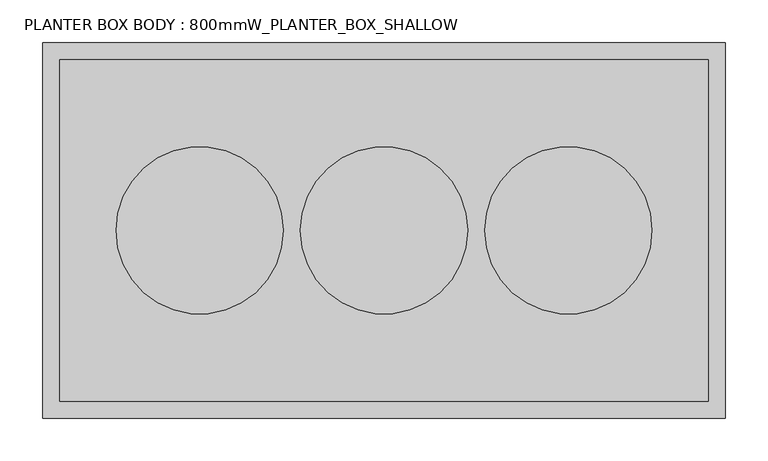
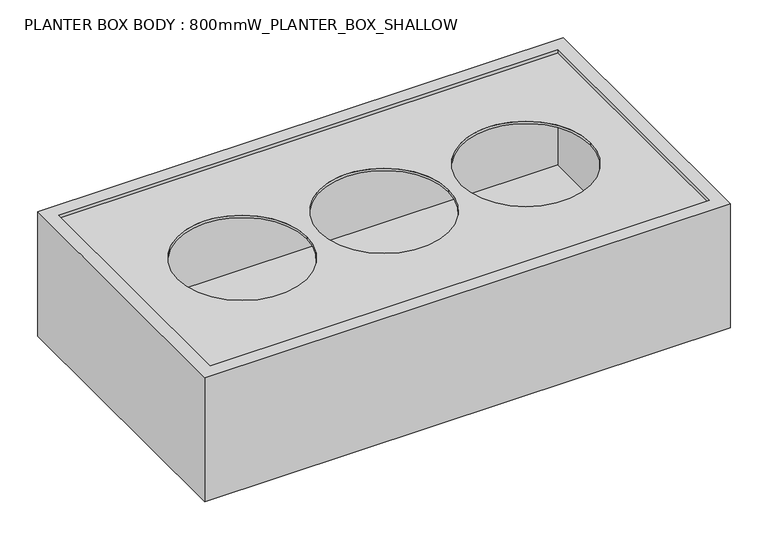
"""IFC4 building model written with IfcOpenShell, lengths in millimetres: furniture geometry, PLANTER BOX BODY : 800mmW_PLANTER_BOX_SHALLOW."""

import ifcopenshell
import ifcopenshell.guid

model = None  # the IFC model being written
_history = None  # IfcOwnerHistory: only IFC2X3 demands one
_inside = {}  # id of a spatial element -> (the spatial element, [elements in it])
_under = {}  # id of a project, library or spatial element -> (it, [spatial elements below it])
_declared = {}  # id of a project -> (the project, [libraries it declares])
_typed = {}  # id of a type object -> (the type object, [elements of that type])
_made_of = {}  # id of a material, layer set ... -> (it, [elements and type objects made of it])


def new_model(schema):
    """Start an empty IFC model of exactly this schema.

    Asked for "IFC4X3", IfcOpenShell would pick the latest addendum, in which some entities
    have other attributes; the version numbers below select the first issue.
    IFC2X3 requires an IfcOwnerHistory on every rooted entity: one is made here for all.
    """
    global model, _history
    if schema == "IFC4X3":
        model = ifcopenshell.file(schema_version=(4, 3, 0, 0))
    else:
        model = ifcopenshell.file(schema=schema)
    _inside.clear()
    _under.clear()
    _declared.clear()
    _typed.clear()
    _made_of.clear()
    _history = None
    if model.schema == "IFC2X3":
        org = make("IfcOrganization", Name="unknown")
        user = make(
            "IfcPersonAndOrganization",
            ThePerson=make("IfcPerson", FamilyName="unknown"),
            TheOrganization=org,
        )
        app = make(
            "IfcApplication",
            ApplicationDeveloper=org,
            Version="unknown",
            ApplicationFullName="unknown",
            ApplicationIdentifier="unknown",
        )
        _history = make(
            "IfcOwnerHistory",
            OwningUser=user,
            OwningApplication=app,
            ChangeAction="ADDED",
            CreationDate=0,
        )
    return model


def make(cls, **values):
    """One entity of the class cls with the attributes given. An attribute that is None is left unset."""
    return model.create_entity(
        cls, **{name: value for name, value in values.items() if value is not None}
    )


def rooted(cls, **values):
    """An entity with a GlobalId (a new one), such as an element, a storey or a relation."""
    return make(cls, GlobalId=ifcopenshell.guid.new(), OwnerHistory=_history, **values)


def si_unit(unit_type, name, prefix=None):
    """IfcSIUnit, for example si_unit("LENGTHUNIT", "METRE", prefix="MILLI")."""
    return make("IfcSIUnit", UnitType=unit_type, Prefix=prefix, Name=name)


def assignment(units):
    """IfcUnitAssignment: the units of a project."""
    return None if units is None else make("IfcUnitAssignment", Units=units)


def point(xyz):
    """IfcCartesianPoint."""
    return None if xyz is None else make("IfcCartesianPoint", Coordinates=xyz)


def direction(xyz):
    """IfcDirection."""
    return None if xyz is None else make("IfcDirection", DirectionRatios=xyz)


def frame(location, z_axis=None, x_axis=None):
    """IfcAxis2Placement3D, a coordinate frame: its origin and axes. An axis left out is left unset."""
    return make(
        "IfcAxis2Placement3D",
        Location=point(location),
        Axis=direction(z_axis),
        RefDirection=direction(x_axis),
    )


def frame_2d(location, x_axis=None):
    """IfcAxis2Placement2D, a coordinate frame in the plane: its origin and x axis."""
    return make(
        "IfcAxis2Placement2D", Location=point(location), RefDirection=direction(x_axis)
    )


def origin():
    """The frame at (0, 0, 0) with its axes left unset."""
    return frame((0.0, 0.0, 0.0))


def origin_2d():
    """The frame at (0, 0) in the plane with its x axis left unset."""
    return frame_2d((0.0, 0.0))


def place(relative_to, where):
    """IfcLocalPlacement: puts the frame where relative to a parent placement (None: the world)."""
    return make(
        "IfcLocalPlacement", PlacementRelTo=relative_to, RelativePlacement=where
    )


def context(
    kind, dimensions, precision=None, world=None, true_north=None, identifier=None
):
    """IfcGeometricRepresentationContext, for example the 3D "Model" context."""
    return make(
        "IfcGeometricRepresentationContext",
        ContextIdentifier=identifier,
        ContextType=kind,
        CoordinateSpaceDimension=dimensions,
        Precision=precision,
        WorldCoordinateSystem=world,
        TrueNorth=true_north,
    )


def project(units=None, contexts=None):
    """IfcProject with its units and contexts."""
    return rooted(
        "IfcProject",
        Name="project",
        RepresentationContexts=contexts,
        UnitsInContext=assignment(units),
    )


def spatial(cls, under=None, at=None, **own):
    """A site, building, storey or space (cls), placed at a placement, below another one or the project."""
    s = rooted(cls, ObjectPlacement=at, **own)
    if under is not None:
        _under.setdefault(under.id(), (under, []))[1].append(s)
    return s


def polyline(points):
    """IfcPolyline through the points."""
    return make("IfcPolyline", Points=[point(p) for p in points])


def circle_curve(where, radius):
    """IfcCircle in the frame where."""
    return make("IfcCircle", Position=where, Radius=radius)


def trimmed(basis, trim1, trim2, sense, master):
    """IfcTrimmedCurve: the piece of a basis curve between two trims."""
    return make(
        "IfcTrimmedCurve",
        BasisCurve=basis,
        Trim1=trim1,
        Trim2=trim2,
        SenseAgreement=sense,
        MasterRepresentation=master,
    )


def segment(curve, same_sense, transition):
    """IfcCompositeCurveSegment."""
    return make(
        "IfcCompositeCurveSegment",
        Transition=transition,
        SameSense=same_sense,
        ParentCurve=curve,
    )


def composite_curve(segments, self_intersect=None):
    """IfcCompositeCurve: segments joined end to end."""
    return make("IfcCompositeCurve", Segments=segments, SelfIntersect=self_intersect)


def outline(outer, holes=None, kind="AREA"):
    """IfcArbitraryClosedProfileDef: a profile drawn as a closed curve; with holes, ...WithVoids."""
    if holes is None:
        return make("IfcArbitraryClosedProfileDef", ProfileType=kind, OuterCurve=outer)
    return make(
        "IfcArbitraryProfileDefWithVoids",
        ProfileType=kind,
        OuterCurve=outer,
        InnerCurves=holes,
    )


def extrude(swept, where, along, depth):
    """IfcExtrudedAreaSolid: the profile swept, set in the frame where, extruded along a direction by depth."""
    return make(
        "IfcExtrudedAreaSolid",
        SweptArea=swept,
        Position=where,
        ExtrudedDirection=direction(along),
        Depth=depth,
    )


def shape(context_of_items, identifier, shape_type, items):
    """IfcShapeRepresentation: the items that make up one representation, for example the "Body"."""
    return make(
        "IfcShapeRepresentation",
        ContextOfItems=context_of_items,
        RepresentationIdentifier=identifier,
        RepresentationType=shape_type,
        Items=items,
    )


def source(mapping_origin, context_of_items, identifier, shape_type, items):
    """IfcRepresentationMap: a shape defined once, which mapped items show again and again."""
    return make(
        "IfcRepresentationMap",
        MappingOrigin=mapping_origin,
        MappedRepresentation=shape(context_of_items, identifier, shape_type, items),
    )


def transform(
    local_origin,
    x_axis=None,
    y_axis=None,
    z_axis=None,
    scale=None,
    scale2=None,
    scale3=None,
    uniform=True,
):
    """IfcCartesianTransformationOperator3D, or its non-uniform kind. x_axis, y_axis, z_axis: its Axis1, 2, 3."""
    if uniform:
        return make(
            "IfcCartesianTransformationOperator3D",
            Axis1=direction(x_axis),
            Axis2=direction(y_axis),
            LocalOrigin=point(local_origin),
            Scale=scale,
            Axis3=direction(z_axis),
        )
    return make(
        "IfcCartesianTransformationOperator3DnonUniform",
        Axis1=direction(x_axis),
        Axis2=direction(y_axis),
        LocalOrigin=point(local_origin),
        Scale=scale,
        Axis3=direction(z_axis),
        Scale2=scale2,
        Scale3=scale3,
    )


def mapped(mapping_source, mapping_target):
    """IfcMappedItem: shows the shape of a source again, moved by a transform."""
    return make(
        "IfcMappedItem", MappingSource=mapping_source, MappingTarget=mapping_target
    )


def made_of(thing, what):
    """Note that an element or type object is made of a material, layer set ...; save() writes the relation."""
    if what is not None:
        _made_of.setdefault(what.id(), (what, []))[1].append(thing)
    return thing


def element(
    cls,
    number,
    at=None,
    inside=None,
    cuts=None,
    type_object=None,
    material=None,
    context=None,
    identifier="Body",
    shape_type=None,
    held_by="IfcProductDefinitionShape",
    body=None,
    shapes=None,
    **own,
):
    """One element of the class cls, such as IfcWall. Its Tag is "e" and its number.

    at: its placement. inside: the storey or other place that contains it. cuts: it is an
    opening in that element (IfcRelVoidsElement). A single representation is given by context,
    identifier, shape_type and body (its items); several are given by shapes. held_by: the class
    of the entity that holds the representations. save() writes the other relations.
    """
    e = rooted(cls, Tag="e%d" % number, ObjectPlacement=at, **own)
    if body is not None:
        shapes = [shape(context, identifier, shape_type, body)]
    if shapes is not None:
        e.Representation = make(held_by, Representations=shapes)
    if inside is not None:
        _inside.setdefault(inside.id(), (inside, []))[1].append(e)
    if cuts is not None:
        rooted(
            "IfcRelVoidsElement", RelatingBuildingElement=cuts, RelatedOpeningElement=e
        )
    if type_object is not None:
        _typed.setdefault(type_object.id(), (type_object, []))[1].append(e)
    return made_of(e, material)


def aggregate(whole, parts):
    """IfcRelAggregates: a whole, such as a stair, and the parts it consists of."""
    return rooted("IfcRelAggregates", RelatingObject=whole, RelatedObjects=parts)


def save(model, path):
    """Write the relations noted so far, then the file.

    IfcRelAggregates (storeys below a building ...), IfcRelContainedInSpatialStructure (elements
    in a storey), IfcRelDefinesByType, IfcRelAssociatesMaterial and IfcRelDeclares: one each for
    every whole, place, type object, material and project.
    """
    for whole, parts in _under.values():
        aggregate(whole, parts)
    for where, things in _inside.values():
        rooted(
            "IfcRelContainedInSpatialStructure",
            RelatedElements=things,
            RelatingStructure=where,
        )
    for kind, things in _typed.values():
        rooted("IfcRelDefinesByType", RelatedObjects=things, RelatingType=kind)
    for what, things in _made_of.values():
        rooted("IfcRelAssociatesMaterial", RelatedObjects=things, RelatingMaterial=what)
    for by, libraries in _declared.values():
        rooted("IfcRelDeclares", RelatingContext=by, RelatedDefinitions=libraries)
    model.write(path)


def planter_box_body_800mmw_planter_box_shallow_7bbb6e6e(model_context):
    return source(origin(), model_context, "Body", "SweptSolid", [
        extrude(outline(polyline([(400.0, 220.0), (400.0, -220.0), (-400.0, -220.0), (-400.0, 220.0), (400.0, 220.0)]), holes=[polyline([(-380.0, 200.0), (-380.0, -200.0), (380.0, -200.0), (380.0, 200.0), (-380.0, 200.0)])]), frame((0.0, 0.0, 195.0), z_axis=(0.0, 0.0, 1.0), x_axis=(1.0, 0.0, 0.0)), (0.0, 0.0, 1.0), 200.0),
        extrude(outline(polyline([(380.0, 200.0), (380.0, -200.0), (-380.0, -200.0), (-380.0, 200.0), (380.0, 200.0)])), frame((0.0, 0.0, 195.0), z_axis=(0.0, 0.0, 1.0), x_axis=(1.0, 0.0, 0.0)), (0.0, 0.0, 1.0), 15.0),
        extrude(outline(polyline([(380.0, 200.0), (380.0, -200.0), (-380.0, -200.0), (-380.0, 200.0), (380.0, 200.0)]), holes=[composite_curve([segment(trimmed(circle_curve(origin_2d(), 98.0), [point((-98.0, 0.0))], [point((98.0, 0.0))], True, "CARTESIAN"), True, "CONTINUOUS"), segment(trimmed(circle_curve(origin_2d(), 98.0), [point((98.0, 0.0))], [point((-98.0, 0.0))], True, "CARTESIAN"), True, "CONTINUOUS")], self_intersect=False), composite_curve([segment(trimmed(circle_curve(frame_2d((216.0, 0.0)), 98.0), [point((118.0, 0.0))], [point((314.0, 0.0))], True, "CARTESIAN"), True, "CONTINUOUS"), segment(trimmed(circle_curve(frame_2d((216.0, 0.0)), 98.0), [point((314.0, 0.0))], [point((118.0, 0.0))], True, "CARTESIAN"), True, "CONTINUOUS")], self_intersect=False), composite_curve([segment(trimmed(circle_curve(frame_2d((-216.0, 0.0)), 98.0), [point((-314.0, 0.0))], [point((-118.0, 0.0))], True, "CARTESIAN"), True, "CONTINUOUS"), segment(trimmed(circle_curve(frame_2d((-216.0, 0.0)), 98.0), [point((-118.0, 0.0))], [point((-314.0, 0.0))], True, "CARTESIAN"), True, "CONTINUOUS")], self_intersect=False)]), frame((0.0, 0.0, 386.4363245), z_axis=(0.0, 0.0, 1.0), x_axis=(1.0, 0.0, 0.0)), (0.0, 0.0, 1.0), 3.5636755),
    ])


if __name__ == "__main__":
    model = new_model("IFC4")
    model_context = context("Model", 3, world=origin())
    ifc_project = project(units=[si_unit("LENGTHUNIT", "METRE", prefix="MILLI")], contexts=[model_context])
    site = spatial("IfcSite", under=ifc_project)
    building = spatial("IfcBuilding", under=site)
    placement = place(None, origin())
    planter_box_body_800mmw_planter_box_shallow_shape = planter_box_body_800mmw_planter_box_shallow_7bbb6e6e(model_context)
    element("IfcFurniture", 1, ObjectType="PLANTER BOX BODY : 800mmW_PLANTER_BOX_SHALLOW", at=placement, inside=building, context=model_context, shape_type="MappedRepresentation", body=[
        mapped(planter_box_body_800mmw_planter_box_shallow_shape, transform((0.0, 0.0, 0.0), x_axis=(1.0, 0.0, 0.0), y_axis=(0.0, 1.0, 0.0), z_axis=(0.0, 0.0, 1.0))),
    ])
    save(model, "model.ifc")
